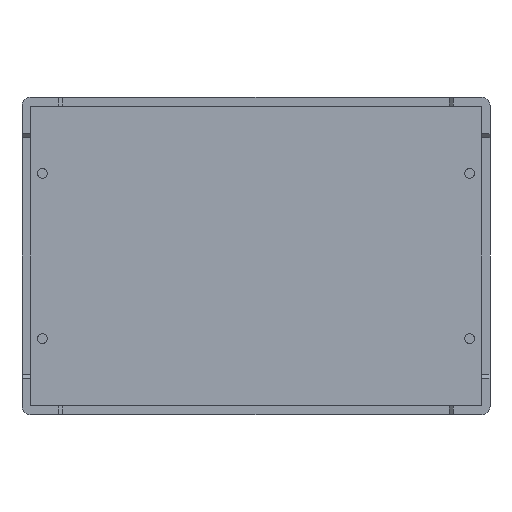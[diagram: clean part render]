
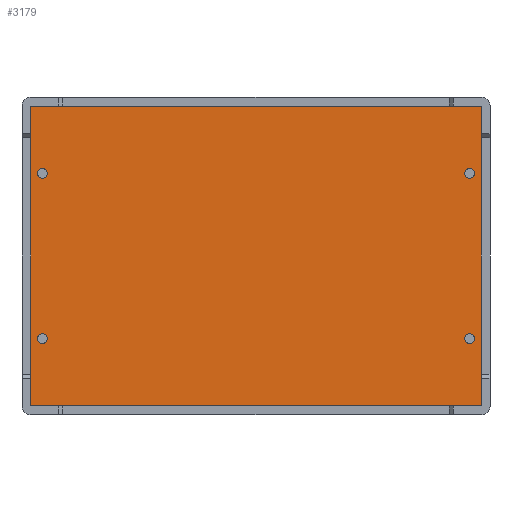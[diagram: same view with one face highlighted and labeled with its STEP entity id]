
A CAD part, front view. The second image highlights one B-rep face of the part: STEP entity #3179.
In plain terms, the highlighted planar face has unit normal (0, -1, 0).
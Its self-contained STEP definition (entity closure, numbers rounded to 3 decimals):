
#5 = FACE_BOUND ( 'NONE', #1528, .T. ) ;
#24 = VERTEX_POINT ( 'NONE', #2279 ) ;
#29 = FACE_BOUND ( 'NONE', #1800, .T. ) ;
#42 = EDGE_CURVE ( 'NONE', #3173, #3073, #864, .T. ) ;
#43 = VERTEX_POINT ( 'NONE', #3769 ) ;
#65 = LINE ( 'NONE', #1057, #76 ) ;
#76 = VECTOR ( 'NONE', #1056, 1000. ) ;
#89 = EDGE_CURVE ( 'NONE', #3283, #3069, #611, .T. ) ;
#111 = VERTEX_POINT ( 'NONE', #1958 ) ;
#127 = DIRECTION ( 'NONE',  ( 0., 0., -1. ) ) ;
#143 = EDGE_CURVE ( 'NONE', #3414, #3255, #65, .T. ) ;
#164 = DIRECTION ( 'NONE',  ( 0., -1., 0. ) ) ;
#177 = EDGE_CURVE ( 'NONE', #259, #4413, #4454, .T. ) ;
#203 = EDGE_CURVE ( 'NONE', #3609, #2681, #3865, .T. ) ;
#228 = EDGE_CURVE ( 'NONE', #267, #111, #3084, .T. ) ;
#238 = EDGE_CURVE ( 'NONE', #4413, #259, #2946, .T. ) ;
#250 = EDGE_CURVE ( 'NONE', #43, #24, #2774, .T. ) ;
#259 = VERTEX_POINT ( 'NONE', #1845 ) ;
#265 = EDGE_CURVE ( 'NONE', #327, #314, #2549, .T. ) ;
#267 = VERTEX_POINT ( 'NONE', #3159 ) ;
#273 = EDGE_CURVE ( 'NONE', #2681, #3414, #2320, .T. ) ;
#279 = EDGE_CURVE ( 'NONE', #3255, #3283, #2229, .T. ) ;
#288 = EDGE_CURVE ( 'NONE', #3069, #3173, #2090, .T. ) ;
#289 = EDGE_CURVE ( 'NONE', #3073, #3609, #2026, .T. ) ;
#314 = VERTEX_POINT ( 'NONE', #813 ) ;
#327 = VERTEX_POINT ( 'NONE', #4436 ) ;
#394 = CIRCLE ( 'NONE', #4138, 0.6 ) ;
#421 = VECTOR ( 'NONE', #2621, 1000. ) ;
#474 = CARTESIAN_POINT ( 'NONE',  ( -26.25, 1., -10.15 ) ) ;
#506 = AXIS2_PLACEMENT_3D ( 'NONE', #2373, #3531, #4066 ) ;
#561 = CARTESIAN_POINT ( 'NONE',  ( 27.65, 1., 18.4 ) ) ;
#611 = LINE ( 'NONE', #2529, #421 ) ;
#643 = FACE_BOUND ( 'NONE', #1607, .T. ) ;
#700 = VECTOR ( 'NONE', #3751, 1000. ) ;
#813 = CARTESIAN_POINT ( 'NONE',  ( -26.25, 1., 9.55 ) ) ;
#841 = DIRECTION ( 'NONE',  ( 0., -1., 0. ) ) ;
#843 = EDGE_CURVE ( 'NONE', #111, #267, #1046, .T. ) ;
#846 = DIRECTION ( 'NONE',  ( 0., 0., -1. ) ) ;
#864 = LINE ( 'NONE', #561, #700 ) ;
#938 = PLANE ( 'NONE',  #3963 ) ;
#1046 = CIRCLE ( 'NONE', #2677, 0.6 ) ;
#1056 = DIRECTION ( 'NONE',  ( 1., 0., 0. ) ) ;
#1057 = CARTESIAN_POINT ( 'NONE',  ( -27.65, 1., -18.4 ) ) ;
#1061 = AXIS2_PLACEMENT_3D ( 'NONE', #3917, #3763, #3568 ) ;
#1071 = CARTESIAN_POINT ( 'NONE',  ( -27.55, 1., -18.4 ) ) ;
#1154 = DIRECTION ( 'NONE',  ( 0., -1., 0. ) ) ;
#1156 = DIRECTION ( 'NONE',  ( 0., 0., -1. ) ) ;
#1208 = CARTESIAN_POINT ( 'NONE',  ( 26.25, 1., -9.55 ) ) ;
#1220 = DIRECTION ( 'NONE',  ( 0., -1., 0. ) ) ;
#1299 = CARTESIAN_POINT ( 'NONE',  ( 26.25, 1., 10.15 ) ) ;
#1301 = EDGE_CURVE ( 'NONE', #24, #43, #1598, .T. ) ;
#1330 = DIRECTION ( 'NONE',  ( 0., -1., 0. ) ) ;
#1351 = EDGE_LOOP ( 'NONE', ( #4306, #4314, #4320, #4324, #4333, #4345, #4355, #4369 ) ) ;
#1365 = DIRECTION ( 'NONE',  ( 0., -1., 0. ) ) ;
#1420 = CARTESIAN_POINT ( 'NONE',  ( -27.55, 1., -18.3 ) ) ;
#1528 = EDGE_LOOP ( 'NONE', ( #4237, #4247 ) ) ;
#1560 = EDGE_LOOP ( 'NONE', ( #4229, #4233 ) ) ;
#1598 = CIRCLE ( 'NONE', #3093, 0.6 ) ;
#1607 = EDGE_LOOP ( 'NONE', ( #4258, #4277 ) ) ;
#1725 = CARTESIAN_POINT ( 'NONE',  ( 27.55, 1., -18.4 ) ) ;
#1749 = AXIS2_PLACEMENT_3D ( 'NONE', #1299, #1220, #1156 ) ;
#1800 = EDGE_LOOP ( 'NONE', ( #4294, #4301 ) ) ;
#1845 = CARTESIAN_POINT ( 'NONE',  ( 26.25, 1., -10.75 ) ) ;
#1958 = CARTESIAN_POINT ( 'NONE',  ( 26.25, 1., 9.55 ) ) ;
#2026 = CIRCLE ( 'NONE', #1061, 0.1 ) ;
#2090 = CIRCLE ( 'NONE', #506, 0.1 ) ;
#2198 = DIRECTION ( 'NONE',  ( 0., -1., 0. ) ) ;
#2215 = DIRECTION ( 'NONE',  ( 0., 0., -1. ) ) ;
#2229 = CIRCLE ( 'NONE', #4055, 0.1 ) ;
#2279 = CARTESIAN_POINT ( 'NONE',  ( -26.25, 1., -10.75 ) ) ;
#2293 = CARTESIAN_POINT ( 'NONE',  ( -27.65, 1., 18.3 ) ) ;
#2320 = CIRCLE ( 'NONE', #3444, 0.1 ) ;
#2338 = DIRECTION ( 'NONE',  ( 0., -1., 0. ) ) ;
#2341 = CARTESIAN_POINT ( 'NONE',  ( 26.25, 1., -10.15 ) ) ;
#2373 = CARTESIAN_POINT ( 'NONE',  ( 27.55, 1., 18.3 ) ) ;
#2383 = AXIS2_PLACEMENT_3D ( 'NONE', #3083, #2996, #2980 ) ;
#2445 = CARTESIAN_POINT ( 'NONE',  ( 27.65, 1., -18.3 ) ) ;
#2529 = CARTESIAN_POINT ( 'NONE',  ( 27.65, 1., -18.4 ) ) ;
#2549 = CIRCLE ( 'NONE', #2383, 0.6 ) ;
#2553 = AXIS2_PLACEMENT_3D ( 'NONE', #2341, #2338, #2215 ) ;
#2621 = DIRECTION ( 'NONE',  ( 0., 0., 1. ) ) ;
#2677 = AXIS2_PLACEMENT_3D ( 'NONE', #4250, #4244, #4239 ) ;
#2681 = VERTEX_POINT ( 'NONE', #3832 ) ;
#2761 = CARTESIAN_POINT ( 'NONE',  ( 27.55, 1., 18.4 ) ) ;
#2774 = CIRCLE ( 'NONE', #4131, 0.6 ) ;
#2946 = CIRCLE ( 'NONE', #3119, 0.6 ) ;
#2980 = DIRECTION ( 'NONE',  ( 0., 0., -1. ) ) ;
#2996 = DIRECTION ( 'NONE',  ( 0., -1., 0. ) ) ;
#3004 = CARTESIAN_POINT ( 'NONE',  ( -26.25, 1., 10.15 ) ) ;
#3060 = CARTESIAN_POINT ( 'NONE',  ( -27.55, 1., 18.4 ) ) ;
#3069 = VERTEX_POINT ( 'NONE', #4234 ) ;
#3073 = VERTEX_POINT ( 'NONE', #3060 ) ;
#3083 = CARTESIAN_POINT ( 'NONE',  ( -26.25, 1., 10.15 ) ) ;
#3084 = CIRCLE ( 'NONE', #1749, 0.6 ) ;
#3093 = AXIS2_PLACEMENT_3D ( 'NONE', #3227, #1154, #3529 ) ;
#3119 = AXIS2_PLACEMENT_3D ( 'NONE', #4059, #3950, #3754 ) ;
#3159 = CARTESIAN_POINT ( 'NONE',  ( 26.25, 1., 10.75 ) ) ;
#3173 = VERTEX_POINT ( 'NONE', #2761 ) ;
#3179 = ADVANCED_FACE ( 'NONE', ( #4453, #5, #643, #29, #3846 ), #938, .T. ) ;
#3227 = CARTESIAN_POINT ( 'NONE',  ( -26.25, 1., -10.15 ) ) ;
#3255 = VERTEX_POINT ( 'NONE', #1725 ) ;
#3283 = VERTEX_POINT ( 'NONE', #2445 ) ;
#3303 = DIRECTION ( 'NONE',  ( 0., 0., -1. ) ) ;
#3334 = CARTESIAN_POINT ( 'NONE',  ( 27.55, 1., -18.3 ) ) ;
#3380 = CARTESIAN_POINT ( 'NONE',  ( 0., 1., 0. ) ) ;
#3414 = VERTEX_POINT ( 'NONE', #1071 ) ;
#3444 = AXIS2_PLACEMENT_3D ( 'NONE', #1420, #1330, #846 ) ;
#3485 = DIRECTION ( 'NONE',  ( 0., 0., -1. ) ) ;
#3529 = DIRECTION ( 'NONE',  ( 0., 0., -1. ) ) ;
#3531 = DIRECTION ( 'NONE',  ( 0., -1., 0. ) ) ;
#3568 = DIRECTION ( 'NONE',  ( 0., 0., -1. ) ) ;
#3609 = VERTEX_POINT ( 'NONE', #2293 ) ;
#3679 = DIRECTION ( 'NONE',  ( 0., 0., -1. ) ) ;
#3751 = DIRECTION ( 'NONE',  ( -1., 0., 0. ) ) ;
#3754 = DIRECTION ( 'NONE',  ( 0., 0., -1. ) ) ;
#3763 = DIRECTION ( 'NONE',  ( 0., -1., 0. ) ) ;
#3769 = CARTESIAN_POINT ( 'NONE',  ( -26.25, 1., -9.55 ) ) ;
#3790 = VECTOR ( 'NONE', #4279, 1000. ) ;
#3832 = CARTESIAN_POINT ( 'NONE',  ( -27.65, 1., -18.3 ) ) ;
#3846 = FACE_OUTER_BOUND ( 'NONE', #1351, .T. ) ;
#3865 = LINE ( 'NONE', #4292, #3790 ) ;
#3917 = CARTESIAN_POINT ( 'NONE',  ( -27.55, 1., 18.3 ) ) ;
#3950 = DIRECTION ( 'NONE',  ( 0., -1., 0. ) ) ;
#3963 = AXIS2_PLACEMENT_3D ( 'NONE', #3380, #1365, #3679 ) ;
#4055 = AXIS2_PLACEMENT_3D ( 'NONE', #3334, #2198, #3485 ) ;
#4059 = CARTESIAN_POINT ( 'NONE',  ( 26.25, 1., -10.15 ) ) ;
#4066 = DIRECTION ( 'NONE',  ( 0., 0., -1. ) ) ;
#4131 = AXIS2_PLACEMENT_3D ( 'NONE', #474, #164, #127 ) ;
#4138 = AXIS2_PLACEMENT_3D ( 'NONE', #3004, #841, #3303 ) ;
#4229 = ORIENTED_EDGE ( 'NONE', *, *, #228, .F. ) ;
#4233 = ORIENTED_EDGE ( 'NONE', *, *, #843, .F. ) ;
#4234 = CARTESIAN_POINT ( 'NONE',  ( 27.65, 1., 18.3 ) ) ;
#4237 = ORIENTED_EDGE ( 'NONE', *, *, #238, .F. ) ;
#4239 = DIRECTION ( 'NONE',  ( 0., 0., -1. ) ) ;
#4244 = DIRECTION ( 'NONE',  ( 0., -1., 0. ) ) ;
#4247 = ORIENTED_EDGE ( 'NONE', *, *, #177, .F. ) ;
#4250 = CARTESIAN_POINT ( 'NONE',  ( 26.25, 1., 10.15 ) ) ;
#4258 = ORIENTED_EDGE ( 'NONE', *, *, #250, .F. ) ;
#4277 = ORIENTED_EDGE ( 'NONE', *, *, #1301, .F. ) ;
#4279 = DIRECTION ( 'NONE',  ( 0., 0., -1. ) ) ;
#4292 = CARTESIAN_POINT ( 'NONE',  ( -27.65, 1., 18.4 ) ) ;
#4294 = ORIENTED_EDGE ( 'NONE', *, *, #265, .F. ) ;
#4301 = ORIENTED_EDGE ( 'NONE', *, *, #4473, .F. ) ;
#4306 = ORIENTED_EDGE ( 'NONE', *, *, #203, .T. ) ;
#4314 = ORIENTED_EDGE ( 'NONE', *, *, #273, .T. ) ;
#4320 = ORIENTED_EDGE ( 'NONE', *, *, #143, .T. ) ;
#4324 = ORIENTED_EDGE ( 'NONE', *, *, #279, .T. ) ;
#4333 = ORIENTED_EDGE ( 'NONE', *, *, #89, .T. ) ;
#4345 = ORIENTED_EDGE ( 'NONE', *, *, #288, .T. ) ;
#4355 = ORIENTED_EDGE ( 'NONE', *, *, #42, .T. ) ;
#4369 = ORIENTED_EDGE ( 'NONE', *, *, #289, .T. ) ;
#4413 = VERTEX_POINT ( 'NONE', #1208 ) ;
#4436 = CARTESIAN_POINT ( 'NONE',  ( -26.25, 1., 10.75 ) ) ;
#4453 = FACE_BOUND ( 'NONE', #1560, .T. ) ;
#4454 = CIRCLE ( 'NONE', #2553, 0.6 ) ;
#4473 = EDGE_CURVE ( 'NONE', #314, #327, #394, .T. ) ;
